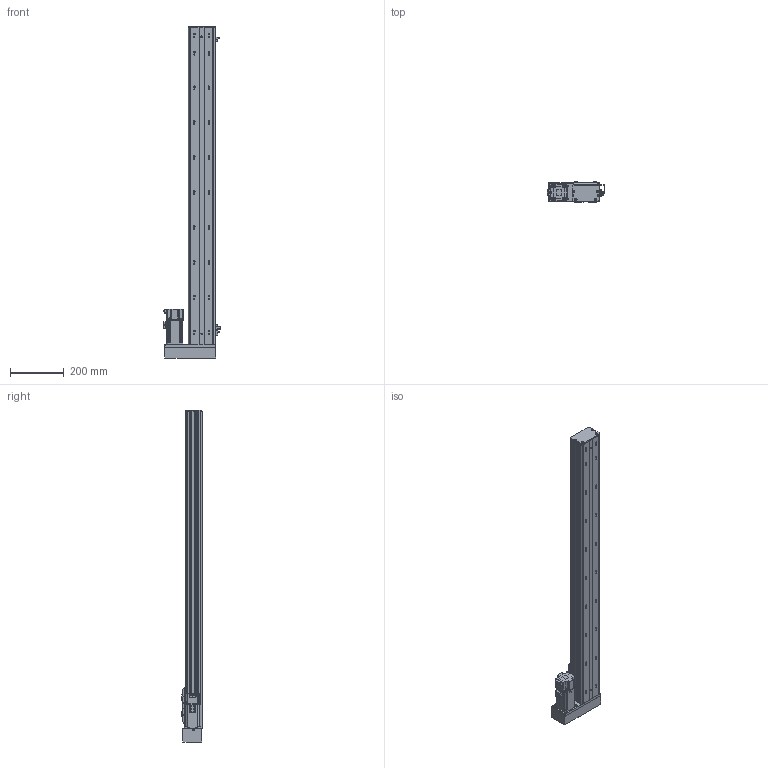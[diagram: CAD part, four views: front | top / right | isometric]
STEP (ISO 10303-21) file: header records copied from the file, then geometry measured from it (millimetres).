
FILE_DESCRIPTION (( 'STEP AP203' ), '1' );
FILE_NAME ('BOSW100-1000-1610-1P-RM-M400W-O-S3（方程式2016）.step', '2020-10-10T07:22:49', ( '' ), ( '' ), 'SwSTEP 2.0', 'SolidWorks 2016', '' );
FILE_SCHEMA (( 'CONFIG_CONTROL_DESIGN' ));
Length unit declared in the file: millimetre
Products named in the file (14): 俋境嫖覜嘐隅啣; BOSW&TW-100-1P-賑雄釱欶; BOSW-100-1P-DM-1000諦誧芞; BOSW-100-1P-DM-宽轨-侧板-1000客户图纸; boS-100-LM&RM-三菱M400W马达板-宽轨; 放大器内置U型微型光电传感器PM-L65; BOSW-100-綴裔啣; BOSW100-1000-1610-1P-RM-M400W-O-S3（方程式2016）; BOSW&TW-100-俋离覜茼え; BOSW-100-1P-DM-宽轨-钢带-1000客户图纸; S400W(SMA-L040); BOSW&TW-100-詩湍揤沭(陔賦凳); 新结构AIMSW-100-1P-宽&高轨共用-滑动座上组件; AIMS(W)-100-LM&RM-肮祭謫欶
Assembly tree (19 placements, depth 2):
  BOSW100-1000-1610-1P-RM-M400W-O-S3（方程式2016）
    BOSW-100-1P-DM-1000諦誧芞
    BOSW-100-綴裔啣
    新结构AIMSW-100-1P-宽&高轨共用-滑动座上组件
    S400W(SMA-L040)
    BOSW&TW-100-詩湍揤沭(陔賦凳)  x2
    BOSW&TW-100-1P-賑雄釱欶
    BOSW-100-1P-DM-宽轨-侧板-1000客户图纸  x2
    BOSW-100-1P-DM-宽轨-钢带-1000客户图纸
    AIMS(W)-100-LM&RM-肮祭謫欶
    boS-100-LM&RM-三菱M400W马达板-宽轨
    俋境嫖覜嘐隅啣  x3
    放大器内置U型微型光电传感器PM-L65  x3
    BOSW&TW-100-俋离覜茼え
Bounding box: 213.4 x 75 x 1236 mm (x, y, z)
Volume: 2666766.8 mm3; surface area: 1233733 mm2
Topology: 19 solids, 20 shells, 2577 faces, 6819 edges, 4355 vertices
Faces by surface type: plane 1249, cylinder 842, bspline 271, cone 167, torus 36, sphere 12
Entity records: 71196 total; most frequent: CARTESIAN_POINT 21196, ORIENTED_EDGE 10178, DIRECTION 9885, EDGE_CURVE 5089, AXIS2_PLACEMENT_3D 3525, VERTEX_POINT 3257, VECTOR 2835, LINE 2835
